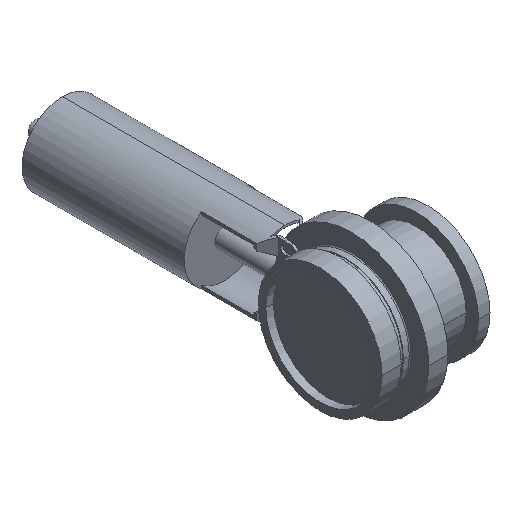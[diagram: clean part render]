
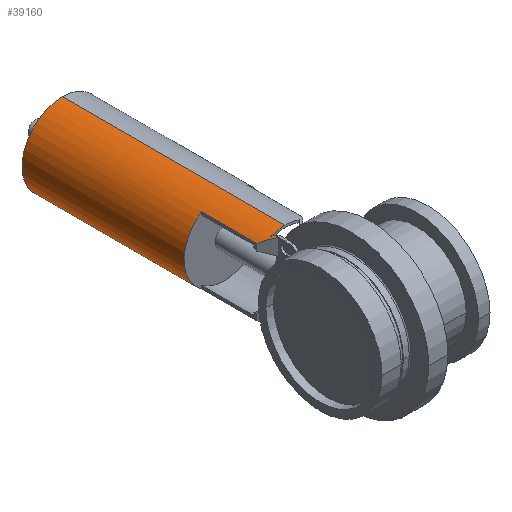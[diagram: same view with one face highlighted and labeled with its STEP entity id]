
A CAD part, isometric view. The second image highlights one B-rep face of the part: STEP entity #39160.
In plain terms, the highlighted cylindrical face has radius 42.5 mm (diameter 85 mm), a partial arc.
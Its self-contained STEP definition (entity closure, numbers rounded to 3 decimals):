
#18270=CARTESIAN_POINT('',(-438.648,176.528,
-35.075));
#18280=VERTEX_POINT('',#18270);
#18310=CARTESIAN_POINT('',(-414.648,176.528,
0.));
#18320=DIRECTION('',(0.,-1.,0.));
#18330=DIRECTION('',(0.,0.,1.));
#18340=AXIS2_PLACEMENT_3D('',#18310,#18320,#18330);
#18350=CIRCLE('',#18340,42.5);
#18360=CARTESIAN_POINT('',(-438.648,176.528,
35.075));
#18370=VERTEX_POINT('',#18360);
#18380=EDGE_CURVE('',#18370,#18280,#18350,.T.);
#23250=CARTESIAN_POINT('',(-414.648,113.128,
0.));
#23260=DIRECTION('',(0.,-1.,0.));
#23270=DIRECTION('',(0.,0.,-1.));
#23280=AXIS2_PLACEMENT_3D('',#23250,#23260,#23270);
#23290=CIRCLE('',#23280,42.5);
#23300=CARTESIAN_POINT('',(-414.648,113.128,-42.5));
#23310=VERTEX_POINT('',#23300);
#23340=CARTESIAN_POINT('',(-429.706,113.128,
-39.743));
#23350=VERTEX_POINT('',#23340);
#23360=EDGE_CURVE('',#23350,#23310,#23290,.T.);
#23620=CARTESIAN_POINT('',(-414.648,98.071,
0.));
#23630=DIRECTION('',(0.707,0.707,0.));
#23640=DIRECTION('',(0.707,-0.707,0.));
#23650=AXIS2_PLACEMENT_3D('',#23620,#23630,#23640);
#23660=ELLIPSE('',#23650,60.104,42.5);
#23670=CARTESIAN_POINT('',(-424.648,108.071,
-41.307));
#23680=VERTEX_POINT('',#23670);
#23690=EDGE_CURVE('',#23680,#23350,#23660,.T.);
#23870=CARTESIAN_POINT('',(-438.648,373.39,
-35.075));
#23880=DIRECTION('',(0.,-1.,0.));
#23890=VECTOR('',#23880,1.);
#23900=LINE('',#23870,#23890);
#23910=CARTESIAN_POINT('',(-438.648,118.535,
-35.075));
#23920=VERTEX_POINT('',#23910);
#23930=EDGE_CURVE('',#18280,#23920,#23900,.T.);
#24350=CARTESIAN_POINT('',(-427.148,100.58,
-40.62));
#24360=VERTEX_POINT('',#24350);
#24390=CARTESIAN_POINT('',(-427.148,373.39,
-40.62));
#24400=DIRECTION('',(0.,-1.,0.));
#24410=VECTOR('',#24400,1.);
#24420=LINE('',#24390,#24410);
#24430=CARTESIAN_POINT('',(-427.148,107.035,
-40.62));
#24440=VERTEX_POINT('',#24430);
#24450=EDGE_CURVE('',#24440,#24360,#24420,.T.);
#26030=CARTESIAN_POINT('',(-427.148,110.571,
40.62));
#26040=VERTEX_POINT('',#26030);
#26070=CARTESIAN_POINT('',(-414.648,98.071,
0.));
#26080=DIRECTION('',(0.707,0.707,0.));
#26090=DIRECTION('',(-0.707,0.707,0.));
#26100=AXIS2_PLACEMENT_3D('',#26070,#26080,#26090);
#26110=ELLIPSE('',#26100,60.104,42.5);
#26120=CARTESIAN_POINT('',(-429.706,113.128,
39.743));
#26130=VERTEX_POINT('',#26120);
#26140=EDGE_CURVE('',#26130,#26040,#26110,.T.);
#27420=CARTESIAN_POINT('',(-438.648,118.535,
35.075));
#27430=VERTEX_POINT('',#27420);
#27750=CARTESIAN_POINT('',(-438.648,373.39,
35.075));
#27760=DIRECTION('',(0.,-1.,0.));
#27770=VECTOR('',#27760,1.);
#27780=LINE('',#27750,#27770);
#27790=EDGE_CURVE('',#18370,#27430,#27780,.T.);
#28670=CARTESIAN_POINT('',(-414.648,113.128,
0.));
#28680=DIRECTION('',(0.,-1.,0.));
#28690=DIRECTION('',(0.,0.,1.));
#28700=AXIS2_PLACEMENT_3D('',#28670,#28680,#28690);
#28710=CIRCLE('',#28700,42.5);
#28720=CARTESIAN_POINT('',(-414.648,113.128,42.5));
#28730=VERTEX_POINT('',#28720);
#28740=EDGE_CURVE('',#28730,#26130,#28710,.T.);
#28890=CARTESIAN_POINT('',(-414.648,176.528,-42.5));
#28900=DIRECTION('',(0.,-1.,0.));
#28910=VECTOR('',#28900,1.);
#28920=LINE('',#28890,#28910);
#28930=CARTESIAN_POINT('',(-414.648,346.528,-42.5));
#28940=VERTEX_POINT('',#28930);
#28950=EDGE_CURVE('',#28940,#23310,#28920,.T.);
#29240=CARTESIAN_POINT('',(-414.648,176.528,42.5));
#29250=DIRECTION('',(0.,-1.,0.));
#29260=VECTOR('',#29250,1.);
#29270=LINE('',#29240,#29260);
#29280=CARTESIAN_POINT('',(-414.648,346.528,42.5));
#29290=VERTEX_POINT('',#29280);
#29300=EDGE_CURVE('',#29290,#28730,#29270,.T.);
#29320=CARTESIAN_POINT('',(-414.648,346.528,
0.));
#29330=DIRECTION('',(0.,-1.,0.));
#29340=DIRECTION('',(0.,0.,-1.));
#29350=AXIS2_PLACEMENT_3D('',#29320,#29330,#29340);
#29360=CIRCLE('',#29350,42.5);
#29470=EDGE_CURVE('',#29290,#28940,#29360,.T.);
#29740=CARTESIAN_POINT('',(-414.648,94.535,
0.));
#29750=DIRECTION('',(-0.707,-0.707,0.));
#29760=DIRECTION('',(0.707,-0.707,0.));
#29770=AXIS2_PLACEMENT_3D('',#29740,#29750,#29760);
#29780=ELLIPSE('',#29770,60.104,42.5);
#29790=CARTESIAN_POINT('',(-427.148,107.035,
40.62));
#29800=VERTEX_POINT('',#29790);
#29810=EDGE_CURVE('',#29800,#27430,#29780,.T.);
#30670=CARTESIAN_POINT('',(-427.148,373.39,
40.62));
#30680=DIRECTION('',(0.,-1.,0.));
#30690=VECTOR('',#30680,1.);
#30700=LINE('',#30670,#30690);
#30730=EDGE_CURVE('',#26040,#29800,#30700,.T.);
#32040=CARTESIAN_POINT('',(-414.648,94.535,
0.));
#32050=DIRECTION('',(0.707,0.707,0.));
#32060=DIRECTION('',(0.707,-0.707,0.));
#32070=AXIS2_PLACEMENT_3D('',#32040,#32050,#32060);
#32080=ELLIPSE('',#32070,60.104,42.5);
#32090=EDGE_CURVE('',#24440,#23920,#32080,.T.);
#32340=CARTESIAN_POINT('',(-424.648,373.39,
-41.307));
#32350=DIRECTION('',(0.,-1.,0.));
#32360=VECTOR('',#32350,1.);
#32370=LINE('',#32340,#32360);
#32380=CARTESIAN_POINT('',(-424.648,104.535,
-41.307));
#32390=VERTEX_POINT('',#32380);
#32400=EDGE_CURVE('',#23680,#32390,#32370,.T.);
#32640=CARTESIAN_POINT('',(-425.296,105.183,
-41.145));
#32650=VERTEX_POINT('',#32640);
#32690=CARTESIAN_POINT('',(-414.648,94.535,
0.));
#32700=DIRECTION('',(-0.707,-0.707,0.));
#32710=DIRECTION('',(-0.707,0.707,0.));
#32720=AXIS2_PLACEMENT_3D('',#32690,#32700,#32710);
#32730=ELLIPSE('',#32720,60.104,42.5);
#32740=EDGE_CURVE('',#32650,#32390,#32730,.T.);
#32840=CARTESIAN_POINT('',(-414.648,-255.939,
0.));
#32850=DIRECTION('',(0.,-0.113,-0.994));
#32860=DIRECTION('',(0.,0.994,-0.113));
#32870=AXIS2_PLACEMENT_3D('',#32840,#32850,#32860);
#32880=ELLIPSE('',#32870,375.431,42.5);
#32890=EDGE_CURVE('',#24360,#32650,#32880,.T.);
#38920=CARTESIAN_POINT('',(-414.648,176.528,
0.));
#38930=DIRECTION('',(0.,-1.,0.));
#38940=DIRECTION('',(0.,0.,-1.));
#38950=AXIS2_PLACEMENT_3D('',#38920,#38930,#38940);
#38960=CYLINDRICAL_SURFACE('',#38950,42.5);
#38970=ORIENTED_EDGE('',*,*,#29470,.T.);
#38980=ORIENTED_EDGE('',*,*,#29300,.F.);
#38990=ORIENTED_EDGE('',*,*,#28740,.F.);
#39000=ORIENTED_EDGE('',*,*,#26140,.F.);
#39010=ORIENTED_EDGE('',*,*,#30730,.F.);
#39020=ORIENTED_EDGE('',*,*,#29810,.F.);
#39030=ORIENTED_EDGE('',*,*,#27790,.T.);
#39040=ORIENTED_EDGE('',*,*,#18380,.F.);
#39050=ORIENTED_EDGE('',*,*,#23930,.F.);
#39060=ORIENTED_EDGE('',*,*,#32090,.T.);
#39070=ORIENTED_EDGE('',*,*,#24450,.F.);
#39080=ORIENTED_EDGE('',*,*,#32890,.F.);
#39090=ORIENTED_EDGE('',*,*,#32740,.F.);
#39100=ORIENTED_EDGE('',*,*,#32400,.T.);
#39110=ORIENTED_EDGE('',*,*,#23690,.F.);
#39120=ORIENTED_EDGE('',*,*,#23360,.F.);
#39130=ORIENTED_EDGE('',*,*,#28950,.T.);
#39140=EDGE_LOOP('',(#39130,#39120,#39110,#39100,#39090,#39080,#39070,
#39060,#39050,#39040,#39030,#39020,#39010,#39000,#38990,#38980,#38970));
#39150=FACE_OUTER_BOUND('',#39140,.T.);
#39160=ADVANCED_FACE('',(#39150),#38960,.T.);
